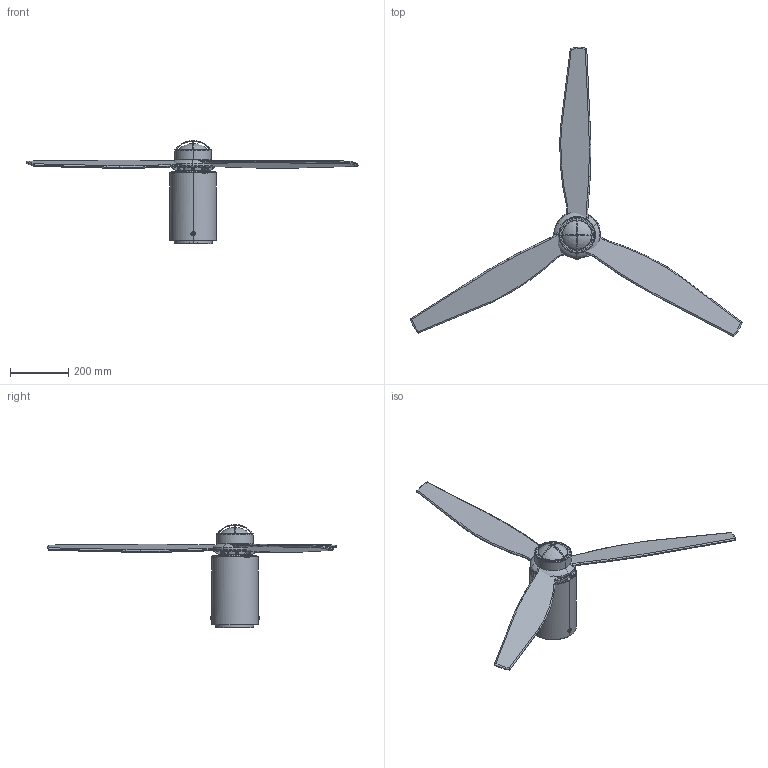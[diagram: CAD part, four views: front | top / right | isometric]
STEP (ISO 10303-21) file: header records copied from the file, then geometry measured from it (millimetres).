
FILE_DESCRIPTION(/* description */ (''),/* implementation_level */ '2;1');
FILE_NAME(/* name */ 'C:\Users\FrancoSartori\Documents\FARO\01_En Proceso\00_TUBEFAN LED\03_Publicación\32040-10.stp',/* time_stamp */ '2021-04-23T11:28:22+02:00',/* author */ ('FrancoSartori'),/* organization */ (''),/* preprocessor_version */ 'ST-DEVELOPER v18.1',/* originating_system */ 'AutoCAD Mechanical',/* authorisation */ '');
FILE_SCHEMA (('AUTOMOTIVE_DESIGN { 1 0 10303 214 3 1 1 }'));
Length unit declared in the file: millimetre
Products named in the file (3): Product; miniTUBEFAN_1280 - FAN-246489-Export; 33390_33391LigKIT - LT-246493-Export
Assembly tree (2 placements, depth 2):
  Product
    miniTUBEFAN_1280 - FAN-246489-Export
    33390_33391LigKIT - LT-246493-Export
Bounding box: 1139.85 x 993.04 x 353.81 mm (x, y, z)
Volume: 3225346.5 mm3; surface area: 934106.2 mm2
Topology: 27 solids, 27 shells, 718 faces, 1789 edges, 1131 vertices
Faces by surface type: plane 233, cylinder 202, torus 172, bspline 68, cone 37, sphere 6
Entity records: 28789 total; most frequent: CARTESIAN_POINT 13195, ORIENTED_EDGE 3510, DIRECTION 2731, EDGE_CURVE 1755, VERTEX_POINT 1115, AXIS2_PLACEMENT_3D 1092, EDGE_LOOP 772, B_SPLINE_CURVE_WITH_KNOTS 741
